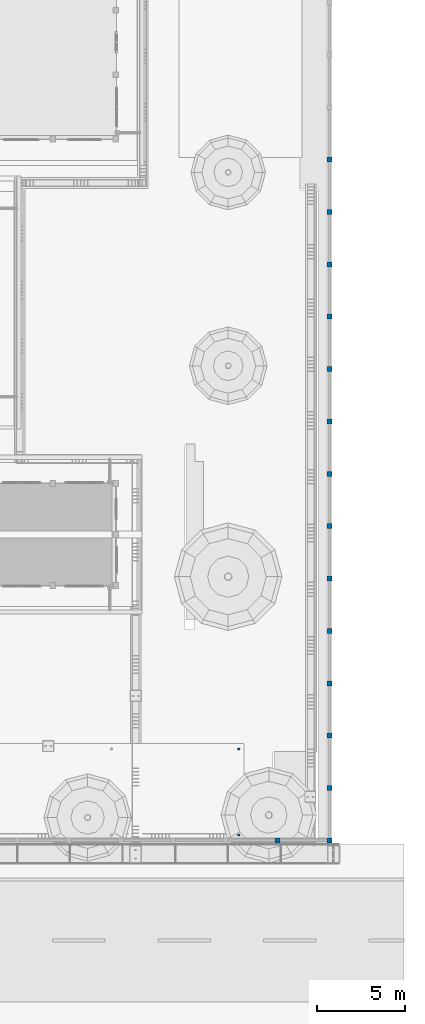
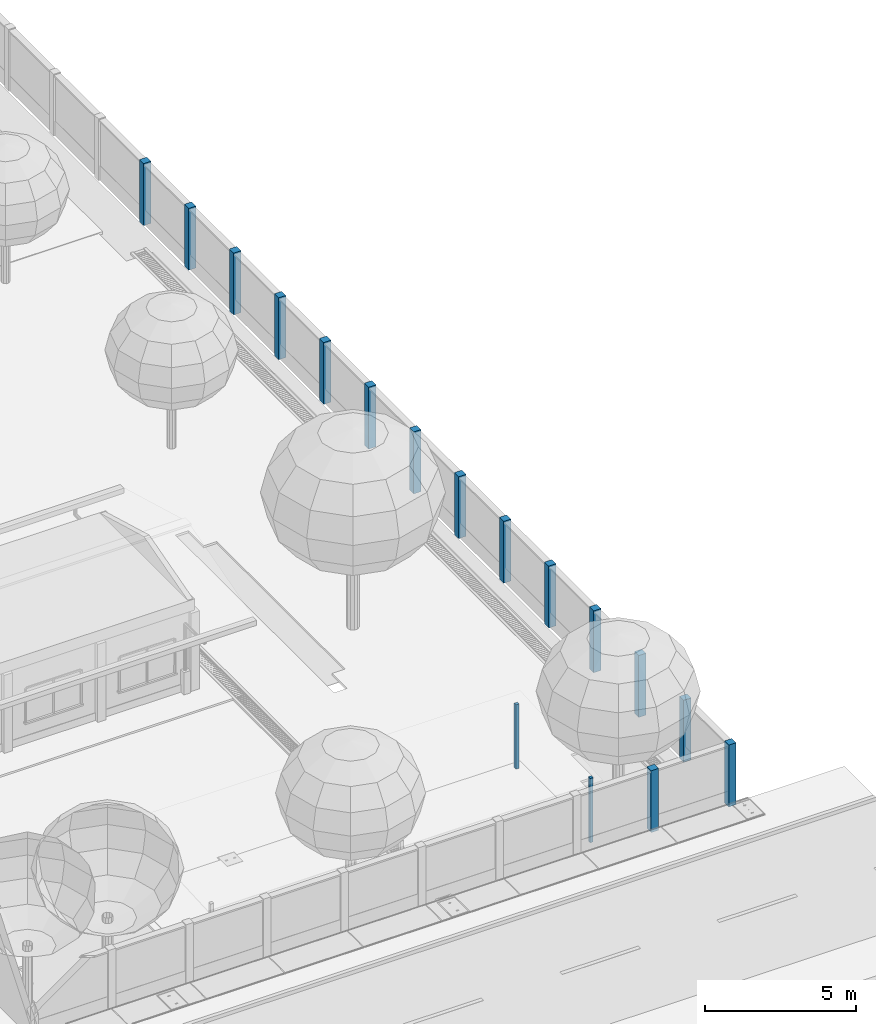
# One storey, part 5 of 166: 18 columns.
"""IFC2X3 building model written with IfcOpenShell, lengths in metres."""

from ifc_helpers import new_model, si_unit, origin, origin_with_axes, place, context, subcontext, project, spatial, faceted_brep, element, save


model = new_model("IFC2X3")

# Units and contexts
model_context = context("Model", 3, precision=1e-05, world=origin_with_axes())
body_context = subcontext(model_context, "Body", "Model", "MODEL_VIEW")
ifc_project = project(units=[si_unit("LENGTHUNIT", "METRE"), si_unit("AREAUNIT", "SQUARE_METRE"), si_unit("VOLUMEUNIT", "CUBIC_METRE"), si_unit("PLANEANGLEUNIT", "RADIAN")], contexts=[model_context])

# Site, building, storey
site_placement = place(None, origin_with_axes())
site = spatial("IfcSite", under=ifc_project, at=site_placement, Name="Predio Los Mangos - Morales, San Martín", CompositionType="ELEMENT")
building_placement = place(site_placement, origin())
building = spatial("IfcBuilding", under=site, at=building_placement, Name="Hogar de Refugio Temporal", CompositionType="ELEMENT")
storey_placement = place(building_placement, origin())
storey = spatial("IfcBuildingStorey", under=building, at=storey_placement, Name="NIVEL 1 (NPT +0.00)", CompositionType="ELEMENT", Elevation=0.0)

# Columns
column_1_placement = place(storey_placement, origin())
element("IfcColumn", 1, at=column_1_placement, inside=storey, Name="poste_autos", ObjectType="Columna", context=body_context, shape_type="Brep", body=[
    faceted_brep([(66.54, 18.24, 0.1), (66.54, 18.36, 0.1), (66.66, 18.36, 0.1), (66.66, 18.24, 0.1), (66.54, 18.24, 2.7), (66.66, 18.24, 2.7), (66.66, 18.36, 2.7), (66.54, 18.36, 2.7)], [[[0, 1, 2, 3]], [[4, 5, 6, 7]], [[0, 3, 5, 4]], [[3, 2, 6, 5]], [[2, 1, 7, 6]], [[1, 0, 4, 7]]]),
])
column_2_placement = place(storey_placement, origin())
element("IfcColumn", 2, at=column_2_placement, inside=storey, Name="poste_autos", ObjectType="Columna", context=body_context, shape_type="Brep", body=[
    faceted_brep([(66.54, 23.14, 0.1), (66.54, 23.26, 0.1), (66.66, 23.26, 0.1), (66.66, 23.14, 0.1), (66.54, 23.14, 2.7), (66.66, 23.14, 2.7), (66.66, 23.26, 2.7), (66.54, 23.26, 2.7)], [[[0, 1, 2, 3]], [[4, 5, 6, 7]], [[0, 3, 5, 4]], [[3, 2, 6, 5]], [[2, 1, 7, 6]], [[1, 0, 4, 7]]]),
])
column_3_placement = place(storey_placement, origin())
element("IfcColumn", 3, at=column_3_placement, inside=storey, Name="columna_cerco", ObjectType="Columna", context=body_context, shape_type="Brep", body=[
    faceted_brep([(68.6578, 17.86, 0.0), (68.6578, 18.14, 0.0), (68.9378, 18.14, 0.0), (68.9378, 17.86, 0.0), (68.6578, 17.86, 2.5), (68.9378, 17.86, 2.5), (68.9378, 18.14, 2.5), (68.6578, 18.14, 2.5)], [[[0, 1, 2, 3]], [[4, 5, 6, 7]], [[0, 3, 5, 4]], [[3, 2, 6, 5]], [[2, 1, 7, 6]], [[1, 0, 4, 7]]]),
])
column_4_placement = place(storey_placement, origin())
element("IfcColumn", 4, at=column_4_placement, inside=storey, Name="columna_cerco", ObjectType="Columna", context=body_context, shape_type="Brep", body=[
    faceted_brep([(71.62, 17.86, 0.0), (71.62, 18.14, 0.0), (71.9, 18.14, 0.0), (71.9, 17.86, 0.0), (71.62, 17.86, 2.5), (71.9, 17.86, 2.5), (71.9, 18.14, 2.5), (71.62, 18.14, 2.5)], [[[0, 1, 2, 3]], [[4, 5, 6, 7]], [[0, 3, 5, 4]], [[3, 2, 6, 5]], [[2, 1, 7, 6]], [[1, 0, 4, 7]]]),
])
column_5_placement = place(storey_placement, origin())
element("IfcColumn", 5, at=column_5_placement, inside=storey, Name="columna_cerco", ObjectType="Columna", context=body_context, shape_type="Brep", body=[
    faceted_brep([(71.9, 17.86, 0.0), (71.62, 17.86, 0.0), (71.62, 18.14, 0.0), (71.9, 18.14, 0.0), (71.9, 17.86, 2.5), (71.9, 18.14, 2.5), (71.62, 18.14, 2.5), (71.62, 17.86, 2.5)], [[[0, 1, 2, 3]], [[4, 5, 6, 7]], [[0, 3, 5, 4]], [[3, 2, 6, 5]], [[2, 1, 7, 6]], [[1, 0, 4, 7]]]),
])
column_6_placement = place(storey_placement, origin())
element("IfcColumn", 6, at=column_6_placement, inside=storey, Name="columna_cerco", ObjectType="Columna", context=body_context, shape_type="Brep", body=[
    faceted_brep([(71.9, 20.8392, 0.0), (71.62, 20.8392, 0.0), (71.62, 21.1192, 0.0), (71.9, 21.1192, 0.0), (71.9, 20.8392, 2.5), (71.9, 21.1192, 2.5), (71.62, 21.1192, 2.5), (71.62, 20.8392, 2.5)], [[[0, 1, 2, 3]], [[4, 5, 6, 7]], [[0, 3, 5, 4]], [[3, 2, 6, 5]], [[2, 1, 7, 6]], [[1, 0, 4, 7]]]),
])
column_7_placement = place(storey_placement, origin())
element("IfcColumn", 7, at=column_7_placement, inside=storey, Name="columna_cerco", ObjectType="Columna", context=body_context, shape_type="Brep", body=[
    faceted_brep([(71.9, 23.8184, 0.0), (71.62, 23.8184, 0.0), (71.62, 24.0984, 0.0), (71.9, 24.0984, 0.0), (71.9, 23.8184, 2.5), (71.9, 24.0984, 2.5), (71.62, 24.0984, 2.5), (71.62, 23.8184, 2.5)], [[[0, 1, 2, 3]], [[4, 5, 6, 7]], [[0, 3, 5, 4]], [[3, 2, 6, 5]], [[2, 1, 7, 6]], [[1, 0, 4, 7]]]),
])
column_8_placement = place(storey_placement, origin())
element("IfcColumn", 8, at=column_8_placement, inside=storey, Name="columna_cerco", ObjectType="Columna", context=body_context, shape_type="Brep", body=[
    faceted_brep([(71.9, 26.7976, 0.0), (71.62, 26.7976, 0.0), (71.62, 27.0776, 0.0), (71.9, 27.0776, 0.0), (71.9, 26.7976, 2.5), (71.9, 27.0776, 2.5), (71.62, 27.0776, 2.5), (71.62, 26.7976, 2.5)], [[[0, 1, 2, 3]], [[4, 5, 6, 7]], [[0, 3, 5, 4]], [[3, 2, 6, 5]], [[2, 1, 7, 6]], [[1, 0, 4, 7]]]),
])
column_9_placement = place(storey_placement, origin())
element("IfcColumn", 9, at=column_9_placement, inside=storey, Name="columna_cerco", ObjectType="Columna", context=body_context, shape_type="Brep", body=[
    faceted_brep([(71.9, 29.7768, 0.0), (71.62, 29.7768, 0.0), (71.62, 30.0568, 0.0), (71.9, 30.0568, 0.0), (71.9, 29.7768, 2.5), (71.9, 30.0568, 2.5), (71.62, 30.0568, 2.5), (71.62, 29.7768, 2.5)], [[[0, 1, 2, 3]], [[4, 5, 6, 7]], [[0, 3, 5, 4]], [[3, 2, 6, 5]], [[2, 1, 7, 6]], [[1, 0, 4, 7]]]),
])
column_10_placement = place(storey_placement, origin())
element("IfcColumn", 10, at=column_10_placement, inside=storey, Name="columna_cerco", ObjectType="Columna", context=body_context, shape_type="Brep", body=[
    faceted_brep([(71.9, 32.7561, 0.0), (71.62, 32.7561, 0.0), (71.62, 33.0361, 0.0), (71.9, 33.0361, 0.0), (71.9, 32.7561, 2.5), (71.9, 33.0361, 2.5), (71.62, 33.0361, 2.5), (71.62, 32.7561, 2.5)], [[[0, 1, 2, 3]], [[4, 5, 6, 7]], [[0, 3, 5, 4]], [[3, 2, 6, 5]], [[2, 1, 7, 6]], [[1, 0, 4, 7]]]),
])
column_11_placement = place(storey_placement, origin())
element("IfcColumn", 11, at=column_11_placement, inside=storey, Name="columna_cerco", ObjectType="Columna", context=body_context, shape_type="Brep", body=[
    faceted_brep([(71.9, 35.7353, 0.0), (71.62, 35.7353, 0.0), (71.62, 36.0153, 0.0), (71.9, 36.0153, 0.0), (71.9, 35.7353, 2.5), (71.9, 36.0153, 2.5), (71.62, 36.0153, 2.5), (71.62, 35.7353, 2.5)], [[[0, 1, 2, 3]], [[4, 5, 6, 7]], [[0, 3, 5, 4]], [[3, 2, 6, 5]], [[2, 1, 7, 6]], [[1, 0, 4, 7]]]),
])
column_12_placement = place(storey_placement, origin())
element("IfcColumn", 12, at=column_12_placement, inside=storey, Name="columna_cerco", ObjectType="Columna", context=body_context, shape_type="Brep", body=[
    faceted_brep([(71.9, 38.7145, 0.0), (71.62, 38.7145, 0.0), (71.62, 38.9945, 0.0), (71.9, 38.9945, 0.0), (71.9, 38.7145, 2.5), (71.9, 38.9945, 2.5), (71.62, 38.9945, 2.5), (71.62, 38.7145, 2.5)], [[[0, 1, 2, 3]], [[4, 5, 6, 7]], [[0, 3, 5, 4]], [[3, 2, 6, 5]], [[2, 1, 7, 6]], [[1, 0, 4, 7]]]),
])
column_13_placement = place(storey_placement, origin())
element("IfcColumn", 13, at=column_13_placement, inside=storey, Name="columna_cerco", ObjectType="Columna", context=body_context, shape_type="Brep", body=[
    faceted_brep([(71.9, 41.6937, 0.0), (71.62, 41.6937, 0.0), (71.62, 41.9737, 0.0), (71.9, 41.9737, 0.0), (71.9, 41.6937, 2.5), (71.9, 41.9737, 2.5), (71.62, 41.9737, 2.5), (71.62, 41.6937, 2.5)], [[[0, 1, 2, 3]], [[4, 5, 6, 7]], [[0, 3, 5, 4]], [[3, 2, 6, 5]], [[2, 1, 7, 6]], [[1, 0, 4, 7]]]),
])
column_14_placement = place(storey_placement, origin())
element("IfcColumn", 14, at=column_14_placement, inside=storey, Name="columna_cerco", ObjectType="Columna", context=body_context, shape_type="Brep", body=[
    faceted_brep([(71.9, 44.6729, 0.0), (71.62, 44.6729, 0.0), (71.62, 44.9529, 0.0), (71.9, 44.9529, 0.0), (71.9, 44.6729, 2.5), (71.9, 44.9529, 2.5), (71.62, 44.9529, 2.5), (71.62, 44.6729, 2.5)], [[[0, 1, 2, 3]], [[4, 5, 6, 7]], [[0, 3, 5, 4]], [[3, 2, 6, 5]], [[2, 1, 7, 6]], [[1, 0, 4, 7]]]),
])
column_15_placement = place(storey_placement, origin())
element("IfcColumn", 15, at=column_15_placement, inside=storey, Name="columna_cerco", ObjectType="Columna", context=body_context, shape_type="Brep", body=[
    faceted_brep([(71.9, 47.6521, 0.0), (71.62, 47.6521, 0.0), (71.62, 47.9321, 0.0), (71.9, 47.9321, 0.0), (71.9, 47.6521, 2.5), (71.9, 47.9321, 2.5), (71.62, 47.9321, 2.5), (71.62, 47.6521, 2.5)], [[[0, 1, 2, 3]], [[4, 5, 6, 7]], [[0, 3, 5, 4]], [[3, 2, 6, 5]], [[2, 1, 7, 6]], [[1, 0, 4, 7]]]),
])
column_16_placement = place(storey_placement, origin())
element("IfcColumn", 16, at=column_16_placement, inside=storey, Name="columna_cerco", ObjectType="Columna", context=body_context, shape_type="Brep", body=[
    faceted_brep([(71.9, 50.6313, 0.0), (71.62, 50.6313, 0.0), (71.62, 50.9113, 0.0), (71.9, 50.9113, 0.0), (71.9, 50.6313, 2.5), (71.9, 50.9113, 2.5), (71.62, 50.9113, 2.5), (71.62, 50.6313, 2.5)], [[[0, 1, 2, 3]], [[4, 5, 6, 7]], [[0, 3, 5, 4]], [[3, 2, 6, 5]], [[2, 1, 7, 6]], [[1, 0, 4, 7]]]),
])
column_17_placement = place(storey_placement, origin())
element("IfcColumn", 17, at=column_17_placement, inside=storey, Name="columna_cerco", ObjectType="Columna", context=body_context, shape_type="Brep", body=[
    faceted_brep([(71.9, 53.6105, 0.0), (71.62, 53.6105, 0.0), (71.62, 53.8905, 0.0), (71.9, 53.8905, 0.0), (71.9, 53.6105, 2.5), (71.9, 53.8905, 2.5), (71.62, 53.8905, 2.5), (71.62, 53.6105, 2.5)], [[[0, 1, 2, 3]], [[4, 5, 6, 7]], [[0, 3, 5, 4]], [[3, 2, 6, 5]], [[2, 1, 7, 6]], [[1, 0, 4, 7]]]),
])
column_18_placement = place(storey_placement, origin())
element("IfcColumn", 18, at=column_18_placement, inside=storey, Name="columna_cerco", ObjectType="Columna", context=body_context, shape_type="Brep", body=[
    faceted_brep([(71.9, 56.5897, 0.0), (71.62, 56.5897, 0.0), (71.62, 56.8697, 0.0), (71.9, 56.8697, 0.0), (71.9, 56.5897, 2.5), (71.9, 56.8697, 2.5), (71.62, 56.8697, 2.5), (71.62, 56.5897, 2.5)], [[[0, 1, 2, 3]], [[4, 5, 6, 7]], [[0, 3, 5, 4]], [[3, 2, 6, 5]], [[2, 1, 7, 6]], [[1, 0, 4, 7]]]),
])

save(model, "model.ifc")
